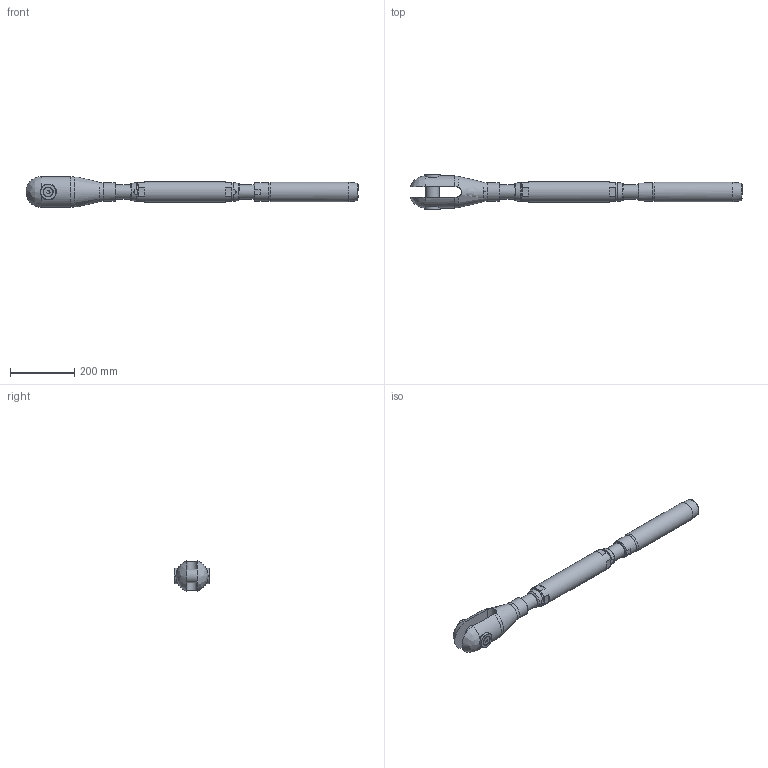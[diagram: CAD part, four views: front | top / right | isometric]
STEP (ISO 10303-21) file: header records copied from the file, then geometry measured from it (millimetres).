
FILE_DESCRIPTION(/* description */ (''),/* implementation_level */ '2;1');
FILE_NAME(/* name */ 'TBC 30_1,4462',/* time_stamp */ '2023-05-23T18:17:16+02:00',/* author */ (''),/* organization */ (''),/* preprocessor_version */ 'ST-DEVELOPER v16.5',/* originating_system */ 'Rhino 7.22',/* authorisation */ '');
FILE_SCHEMA (('CONFIG_CONTROL_DESIGN'));
Length unit declared in the file: millimetre
Products named in the file (1): Document
Bounding box: 1031.25 x 109.8 x 94.74 mm (x, y, z)
Volume: 3144221.6 mm3; surface area: 369292.8 mm2
Topology: 10 solids, 10 shells, 140 faces, 382 edges, 264 vertices
Faces by surface type: plane 65, bspline 40, cylinder 35
Full cylindrical faces by diameter (mm): 13.835 x2, 16 x2, 17 x2, 29.01 x2, 41.752 x4, 42 x1, 44 x2, 45 x2, 48 x2, 49 x1, 57.2 x2, 60.5 x1, 65 x1
Entity records: 5927 total; most frequent: CARTESIAN_POINT 3502, ORIENTED_EDGE 756, EDGE_CURVE 378, VERTEX_POINT 264, EDGE_LOOP 160, B_SPLINE_CURVE_WITH_KNOTS 157, ADVANCED_FACE 140, FACE_OUTER_BOUND 140
